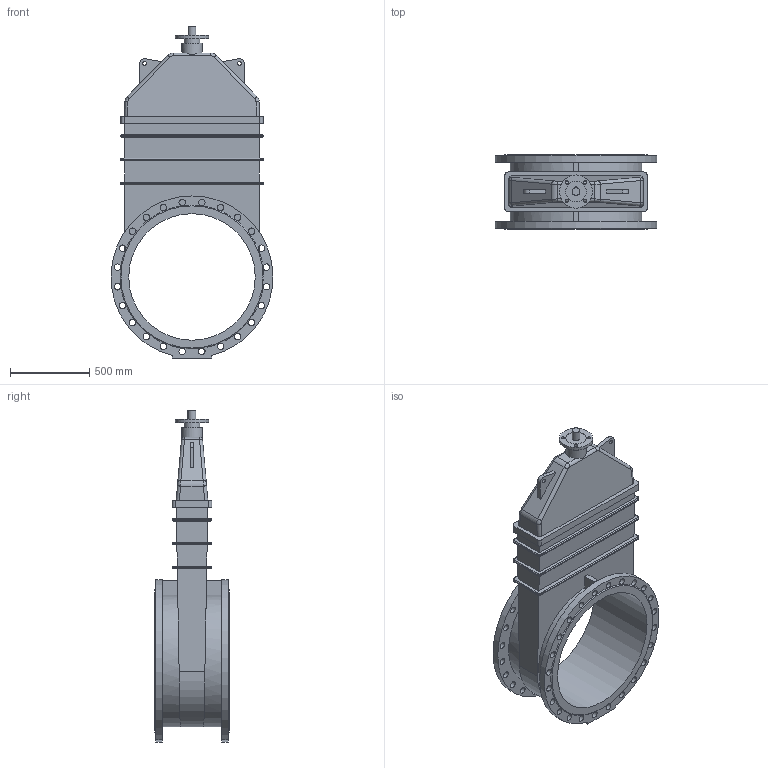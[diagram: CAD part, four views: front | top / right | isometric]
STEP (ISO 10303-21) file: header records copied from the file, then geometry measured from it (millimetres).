
FILE_DESCRIPTION(('STEP AP203'), '1');
FILE_NAME('Çàäâèæêà 47GVA DN800 PN10_PN16_F16 áåç èñïîëíèò. ìåõ.', '', ('UNSPECIFIED'), ('UNSPECIFIED'), 'ASCON STEP Converter 1.6', 'ASCON Math Kernel', '');
FILE_SCHEMA(('CONFIG_CONTROL_DESIGN'));
Length unit declared in the file: millimetre
Bounding box: 1024.26 x 470 x 2099.5 mm (x, y, z)
Volume: 209764070.3 mm3; surface area: 6523205.6 mm2
Topology: 1 solids, 1 shells, 258 faces, 739 edges, 455 vertices
Faces by surface type: cylinder 131, plane 93, bspline 32, cone 2
Full cylindrical faces by diameter (mm): 22 x4, 25 x2, 41 x48, 50 x1, 100 x1, 130 x2, 210 x1, 800 x1
Entity records: 12915 total; most frequent: CARTESIAN_POINT 4272, DIRECTION 1332, ORIENTED_EDGE 1308, EDGE_CURVE 654, AXIS2_PLACEMENT_3D 531, EDGE_LOOP 452, VERTEX_POINT 442, FACE_BOUND 371
